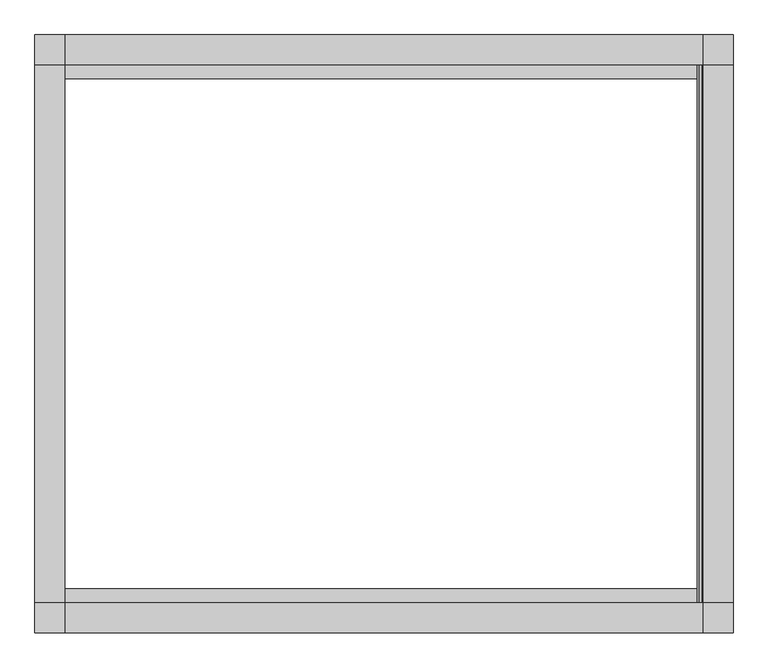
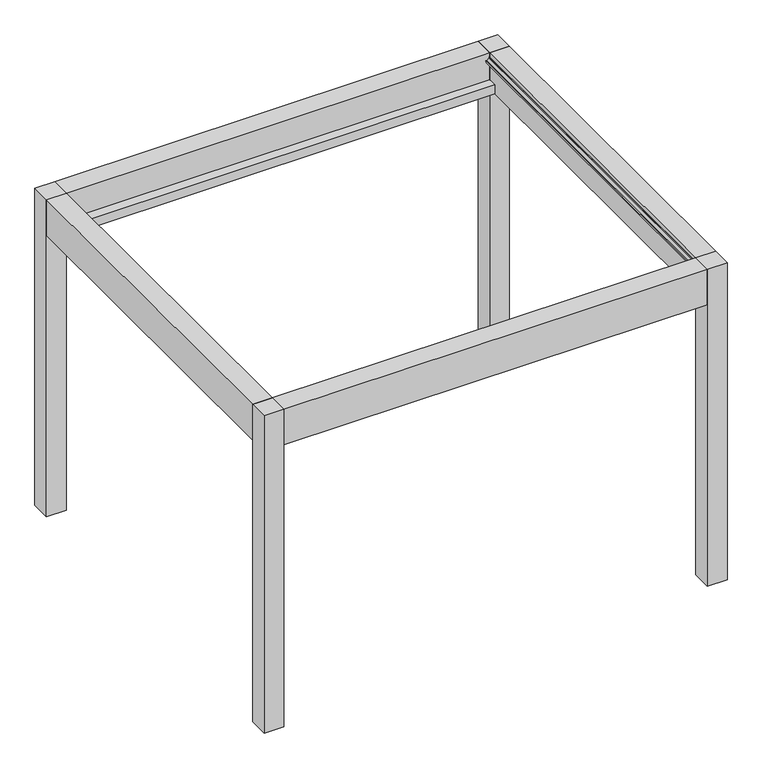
"""IFC4 building model written with IfcOpenShell, lengths in millimetres: proxy geometry, Renson_Amani_Patio_Cover : Renson_Amani_Patio_Cover."""

import ifcopenshell
import ifcopenshell.guid

model = None  # the IFC model being written
_history = None  # IfcOwnerHistory: only IFC2X3 demands one
_inside = {}  # id of a spatial element -> (the spatial element, [elements in it])
_under = {}  # id of a project, library or spatial element -> (it, [spatial elements below it])
_declared = {}  # id of a project -> (the project, [libraries it declares])
_typed = {}  # id of a type object -> (the type object, [elements of that type])
_made_of = {}  # id of a material, layer set ... -> (it, [elements and type objects made of it])


def new_model(schema):
    """Start an empty IFC model of exactly this schema.

    Asked for "IFC4X3", IfcOpenShell would pick the latest addendum, in which some entities
    have other attributes; the version numbers below select the first issue.
    IFC2X3 requires an IfcOwnerHistory on every rooted entity: one is made here for all.
    """
    global model, _history
    if schema == "IFC4X3":
        model = ifcopenshell.file(schema_version=(4, 3, 0, 0))
    else:
        model = ifcopenshell.file(schema=schema)
    _inside.clear()
    _under.clear()
    _declared.clear()
    _typed.clear()
    _made_of.clear()
    _history = None
    if model.schema == "IFC2X3":
        org = make("IfcOrganization", Name="unknown")
        user = make(
            "IfcPersonAndOrganization",
            ThePerson=make("IfcPerson", FamilyName="unknown"),
            TheOrganization=org,
        )
        app = make(
            "IfcApplication",
            ApplicationDeveloper=org,
            Version="unknown",
            ApplicationFullName="unknown",
            ApplicationIdentifier="unknown",
        )
        _history = make(
            "IfcOwnerHistory",
            OwningUser=user,
            OwningApplication=app,
            ChangeAction="ADDED",
            CreationDate=0,
        )
    return model


def make(cls, **values):
    """One entity of the class cls with the attributes given. An attribute that is None is left unset."""
    return model.create_entity(
        cls, **{name: value for name, value in values.items() if value is not None}
    )


def rooted(cls, **values):
    """An entity with a GlobalId (a new one), such as an element, a storey or a relation."""
    return make(cls, GlobalId=ifcopenshell.guid.new(), OwnerHistory=_history, **values)


def si_unit(unit_type, name, prefix=None):
    """IfcSIUnit, for example si_unit("LENGTHUNIT", "METRE", prefix="MILLI")."""
    return make("IfcSIUnit", UnitType=unit_type, Prefix=prefix, Name=name)


def assignment(units):
    """IfcUnitAssignment: the units of a project."""
    return None if units is None else make("IfcUnitAssignment", Units=units)


def point(xyz):
    """IfcCartesianPoint."""
    return None if xyz is None else make("IfcCartesianPoint", Coordinates=xyz)


def direction(xyz):
    """IfcDirection."""
    return None if xyz is None else make("IfcDirection", DirectionRatios=xyz)


def frame(location, z_axis=None, x_axis=None):
    """IfcAxis2Placement3D, a coordinate frame: its origin and axes. An axis left out is left unset."""
    return make(
        "IfcAxis2Placement3D",
        Location=point(location),
        Axis=direction(z_axis),
        RefDirection=direction(x_axis),
    )


def origin():
    """The frame at (0, 0, 0) with its axes left unset."""
    return frame((0.0, 0.0, 0.0))


def origin_with_axes():
    """The frame at (0, 0, 0) with the z axis (0, 0, 1) and the x axis (1, 0, 0) written out."""
    return frame((0.0, 0.0, 0.0), z_axis=(0.0, 0.0, 1.0), x_axis=(1.0, 0.0, 0.0))


def place(relative_to, where):
    """IfcLocalPlacement: puts the frame where relative to a parent placement (None: the world)."""
    return make(
        "IfcLocalPlacement", PlacementRelTo=relative_to, RelativePlacement=where
    )


def context(
    kind, dimensions, precision=None, world=None, true_north=None, identifier=None
):
    """IfcGeometricRepresentationContext, for example the 3D "Model" context."""
    return make(
        "IfcGeometricRepresentationContext",
        ContextIdentifier=identifier,
        ContextType=kind,
        CoordinateSpaceDimension=dimensions,
        Precision=precision,
        WorldCoordinateSystem=world,
        TrueNorth=true_north,
    )


def project(units=None, contexts=None):
    """IfcProject with its units and contexts."""
    return rooted(
        "IfcProject",
        Name="project",
        RepresentationContexts=contexts,
        UnitsInContext=assignment(units),
    )


def spatial(cls, under=None, at=None, **own):
    """A site, building, storey or space (cls), placed at a placement, below another one or the project."""
    s = rooted(cls, ObjectPlacement=at, **own)
    if under is not None:
        _under.setdefault(under.id(), (under, []))[1].append(s)
    return s


def polyline(points):
    """IfcPolyline through the points."""
    return make("IfcPolyline", Points=[point(p) for p in points])


def outline(outer, holes=None, kind="AREA"):
    """IfcArbitraryClosedProfileDef: a profile drawn as a closed curve; with holes, ...WithVoids."""
    if holes is None:
        return make("IfcArbitraryClosedProfileDef", ProfileType=kind, OuterCurve=outer)
    return make(
        "IfcArbitraryProfileDefWithVoids",
        ProfileType=kind,
        OuterCurve=outer,
        InnerCurves=holes,
    )


def extrude(swept, where, along, depth):
    """IfcExtrudedAreaSolid: the profile swept, set in the frame where, extruded along a direction by depth."""
    return make(
        "IfcExtrudedAreaSolid",
        SweptArea=swept,
        Position=where,
        ExtrudedDirection=direction(along),
        Depth=depth,
    )


def shape(context_of_items, identifier, shape_type, items):
    """IfcShapeRepresentation: the items that make up one representation, for example the "Body"."""
    return make(
        "IfcShapeRepresentation",
        ContextOfItems=context_of_items,
        RepresentationIdentifier=identifier,
        RepresentationType=shape_type,
        Items=items,
    )


def source(mapping_origin, context_of_items, identifier, shape_type, items):
    """IfcRepresentationMap: a shape defined once, which mapped items show again and again."""
    return make(
        "IfcRepresentationMap",
        MappingOrigin=mapping_origin,
        MappedRepresentation=shape(context_of_items, identifier, shape_type, items),
    )


def transform(
    local_origin,
    x_axis=None,
    y_axis=None,
    z_axis=None,
    scale=None,
    scale2=None,
    scale3=None,
    uniform=True,
):
    """IfcCartesianTransformationOperator3D, or its non-uniform kind. x_axis, y_axis, z_axis: its Axis1, 2, 3."""
    if uniform:
        return make(
            "IfcCartesianTransformationOperator3D",
            Axis1=direction(x_axis),
            Axis2=direction(y_axis),
            LocalOrigin=point(local_origin),
            Scale=scale,
            Axis3=direction(z_axis),
        )
    return make(
        "IfcCartesianTransformationOperator3DnonUniform",
        Axis1=direction(x_axis),
        Axis2=direction(y_axis),
        LocalOrigin=point(local_origin),
        Scale=scale,
        Axis3=direction(z_axis),
        Scale2=scale2,
        Scale3=scale3,
    )


def mapped(mapping_source, mapping_target):
    """IfcMappedItem: shows the shape of a source again, moved by a transform."""
    return make(
        "IfcMappedItem", MappingSource=mapping_source, MappingTarget=mapping_target
    )


def made_of(thing, what):
    """Note that an element or type object is made of a material, layer set ...; save() writes the relation."""
    if what is not None:
        _made_of.setdefault(what.id(), (what, []))[1].append(thing)
    return thing


def element(
    cls,
    number,
    at=None,
    inside=None,
    cuts=None,
    type_object=None,
    material=None,
    context=None,
    identifier="Body",
    shape_type=None,
    held_by="IfcProductDefinitionShape",
    body=None,
    shapes=None,
    **own,
):
    """One element of the class cls, such as IfcWall. Its Tag is "e" and its number.

    at: its placement. inside: the storey or other place that contains it. cuts: it is an
    opening in that element (IfcRelVoidsElement). A single representation is given by context,
    identifier, shape_type and body (its items); several are given by shapes. held_by: the class
    of the entity that holds the representations. save() writes the other relations.
    """
    e = rooted(cls, Tag="e%d" % number, ObjectPlacement=at, **own)
    if body is not None:
        shapes = [shape(context, identifier, shape_type, body)]
    if shapes is not None:
        e.Representation = make(held_by, Representations=shapes)
    if inside is not None:
        _inside.setdefault(inside.id(), (inside, []))[1].append(e)
    if cuts is not None:
        rooted(
            "IfcRelVoidsElement", RelatingBuildingElement=cuts, RelatedOpeningElement=e
        )
    if type_object is not None:
        _typed.setdefault(type_object.id(), (type_object, []))[1].append(e)
    return made_of(e, material)


def aggregate(whole, parts):
    """IfcRelAggregates: a whole, such as a stair, and the parts it consists of."""
    return rooted("IfcRelAggregates", RelatingObject=whole, RelatedObjects=parts)


def save(model, path):
    """Write the relations noted so far, then the file.

    IfcRelAggregates (storeys below a building ...), IfcRelContainedInSpatialStructure (elements
    in a storey), IfcRelDefinesByType, IfcRelAssociatesMaterial and IfcRelDeclares: one each for
    every whole, place, type object, material and project.
    """
    for whole, parts in _under.values():
        aggregate(whole, parts)
    for where, things in _inside.values():
        rooted(
            "IfcRelContainedInSpatialStructure",
            RelatedElements=things,
            RelatingStructure=where,
        )
    for kind, things in _typed.values():
        rooted("IfcRelDefinesByType", RelatedObjects=things, RelatingType=kind)
    for what, things in _made_of.values():
        rooted("IfcRelAssociatesMaterial", RelatedObjects=things, RelatingMaterial=what)
    for by, libraries in _declared.values():
        rooted("IfcRelDeclares", RelatingContext=by, RelatedDefinitions=libraries)
    model.write(path)


def generic_models_9605c008(model_context):
    return source(origin(), model_context, "Body", "SweptSolid", [
        extrude(outline(polyline([(1750.0, -1350.0), (1750.0, -1500.0), (1600.0, -1500.0), (1600.0, -1350.0), (1750.0, -1350.0)])), origin_with_axes(), (0.0, 0.0, 1.0), 2535.0),
        extrude(outline(polyline([(1750.0, 1500.0), (1750.0, 1350.0), (1600.0, 1350.0), (1600.0, 1500.0), (1750.0, 1500.0)])), origin_with_axes(), (0.0, 0.0, 1.0), 2535.0),
        extrude(outline(polyline([(-1600.0, 1350.0), (-1750.0, 1350.0), (-1750.0, 1500.0), (-1600.0, 1500.0), (-1600.0, 1350.0)])), origin_with_axes(), (0.0, 0.0, 1.0), 2535.0),
        extrude(outline(polyline([(-1600.0, -1350.0), (-1600.0, -1500.0), (-1750.0, -1500.0), (-1750.0, -1350.0), (-1600.0, -1350.0)])), origin_with_axes(), (0.0, 0.0, 1.0), 2535.0),
        extrude(outline(polyline([(-1600.0, -1350.0), (-1750.0, -1350.0), (-1750.0, 1350.0), (-1600.0, 1350.0), (-1600.0, -1350.0)])), frame((0.0, 0.0, 2250.0), z_axis=(0.0, 0.0, 1.0), x_axis=(1.0, 0.0, 0.0)), (0.0, 0.0, 1.0), 285.0),
        extrude(outline(polyline([(2535.0, 1750.0), (2535.0, 1600.0), (2504.6904658, 1600.0), (2504.2449277, 1595.0), (2496.400763, 1595.0), (2480.6555802, 1579.2544156), (2480.6555802, 1569.9090324), (2466.6559373, 1573.6603211), (2466.6559373, 1600.0), (2250.0, 1600.0), (2250.0, 1750.0), (2535.0, 1750.0)])), frame((0.0, -1350.0, 0.0), z_axis=(0.0, 1.0, 0.0), x_axis=(0.0, 0.0, 1.0)), (0.0, 0.0, 1.0), 2700.0),
        extrude(outline(polyline([(-1350.0, 2535.0), (-1350.0, 2322.0), (-1280.0000001, 2322.0), (-1280.0000001, 2250.0), (-1500.0, 2250.0), (-1500.0, 2535.0), (-1350.0, 2535.0)])), frame((-1600.0, 0.0, 0.0), z_axis=(1.0, 0.0, 0.0), x_axis=(0.0, 1.0, 0.0)), (0.0, 0.0, 1.0), 3200.0),
        extrude(outline(polyline([(1500.0, 2250.0), (1280.0000001, 2250.0), (1280.0000001, 2322.0), (1350.0, 2322.0), (1350.0, 2535.0), (1500.0, 2535.0), (1500.0, 2250.0)])), frame((-1600.0, 0.0, 0.0), z_axis=(1.0, 0.0, 0.0), x_axis=(0.0, 1.0, 0.0)), (0.0, 0.0, 1.0), 3200.0),
    ])


if __name__ == "__main__":
    model = new_model("IFC4")
    model_context = context("Model", 3, world=origin())
    ifc_project = project(units=[si_unit("LENGTHUNIT", "METRE", prefix="MILLI")], contexts=[model_context])
    site = spatial("IfcSite", under=ifc_project)
    building = spatial("IfcBuilding", under=site)
    placement = place(None, origin())
    generic_models_shape = generic_models_9605c008(model_context)
    element("IfcBuildingElementProxy", 1, Name="Renson_Amani_Patio_Cover : Renson_Amani_Patio_Cover", ObjectType="Renson_Amani_Patio_Cover : Renson_Amani_Patio_Cover", at=placement, inside=building, context=model_context, shape_type="MappedRepresentation", body=[
        mapped(generic_models_shape, transform((0.0, 0.0, 0.0), x_axis=(1.0, 0.0, 0.0), y_axis=(0.0, 1.0, 0.0), z_axis=(0.0, 0.0, 1.0))),
    ])
    save(model, "model.ifc")
